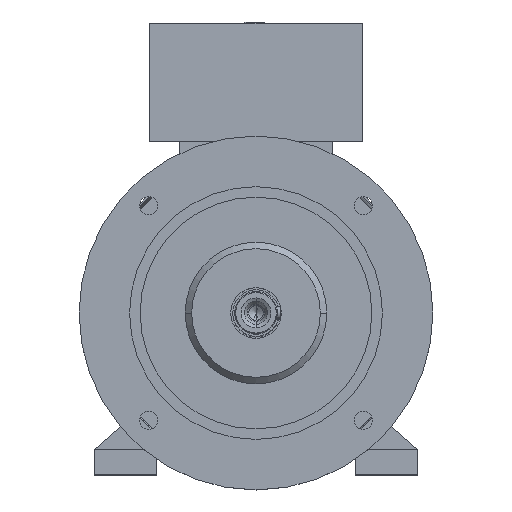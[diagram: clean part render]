
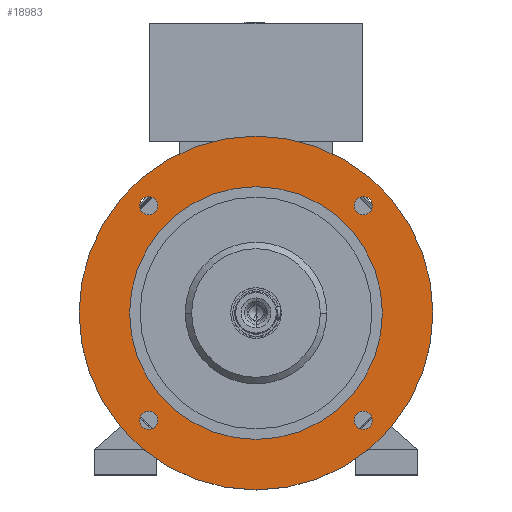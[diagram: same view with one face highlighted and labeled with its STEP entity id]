
A CAD part, top view. The second image highlights one B-rep face of the part: STEP entity #18983.
In plain terms, the highlighted planar face has unit normal (0, 0, 1).
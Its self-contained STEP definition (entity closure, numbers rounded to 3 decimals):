
#304 = DIRECTION ( 'NONE',  ( 1., 0., 0. ) ) ;
#600 = CIRCLE ( 'NONE', #13720, 175. ) ;
#696 = ORIENTED_EDGE ( 'NONE', *, *, #20912, .T. ) ;
#703 = FACE_BOUND ( 'NONE', #12843, .T. ) ;
#992 = CARTESIAN_POINT ( 'NONE',  ( 0., 0., 235. ) ) ;
#1061 = CIRCLE ( 'NONE', #20947, 125. ) ;
#1234 = EDGE_LOOP ( 'NONE', ( #16765, #8717 ) ) ;
#1610 = FACE_BOUND ( 'NONE', #12971, .T. ) ;
#2483 = VERTEX_POINT ( 'NONE', #13004 ) ;
#2506 = EDGE_CURVE ( 'NONE', #20152, #2483, #22468, .T. ) ;
#2639 = DIRECTION ( 'NONE',  ( -1., 0., 0. ) ) ;
#2723 = DIRECTION ( 'NONE',  ( 0., 0., -1. ) ) ;
#3949 = CARTESIAN_POINT ( 'NONE',  ( 106.066, 106.066, 235. ) ) ;
#4060 = CIRCLE ( 'NONE', #5446, 9. ) ;
#4516 = CARTESIAN_POINT ( 'NONE',  ( 106.066, 106.066, 235. ) ) ;
#4687 = CARTESIAN_POINT ( 'NONE',  ( 97.066, -106.066, 235. ) ) ;
#4689 = AXIS2_PLACEMENT_3D ( 'NONE', #4516, #6217, #23840 ) ;
#4699 = ORIENTED_EDGE ( 'NONE', *, *, #13343, .F. ) ;
#4749 = DIRECTION ( 'NONE',  ( -1., 0., 0. ) ) ;
#4748 = DIRECTION ( 'NONE',  ( 0., 0., -1. ) ) ;
#4988 = CARTESIAN_POINT ( 'NONE',  ( -115.066, -106.066, 235. ) ) ;
#5011 = CARTESIAN_POINT ( 'NONE',  ( -97.066, -106.066, 235. ) ) ;
#5141 = ORIENTED_EDGE ( 'NONE', *, *, #7512, .F. ) ;
#5160 = EDGE_CURVE ( 'NONE', #13303, #23023, #19326, .T. ) ;
#5182 = EDGE_CURVE ( 'NONE', #24941, #19526, #6085, .T. ) ;
#5326 = CARTESIAN_POINT ( 'NONE',  ( -175., 0., 235. ) ) ;
#5446 = AXIS2_PLACEMENT_3D ( 'NONE', #3949, #17420, #23192 ) ;
#5651 = CIRCLE ( 'NONE', #11025, 175. ) ;
#5861 = DIRECTION ( 'NONE',  ( 1., 0., 0. ) ) ;
#5904 = AXIS2_PLACEMENT_3D ( 'NONE', #23944, #22281, #22370 ) ;
#6005 = AXIS2_PLACEMENT_3D ( 'NONE', #7514, #17058, #7435 ) ;
#6085 = CIRCLE ( 'NONE', #24391, 9. ) ;
#6212 = ORIENTED_EDGE ( 'NONE', *, *, #5160, .T. ) ;
#6217 = DIRECTION ( 'NONE',  ( 0., 0., -1. ) ) ;
#6854 = CARTESIAN_POINT ( 'NONE',  ( -106.066, -106.066, 235. ) ) ;
#7309 = FACE_OUTER_BOUND ( 'NONE', #20898, .T. ) ;
#7435 = DIRECTION ( 'NONE',  ( 1., 0., 0. ) ) ;
#7512 = EDGE_CURVE ( 'NONE', #9274, #12712, #5651, .T. ) ;
#7514 = CARTESIAN_POINT ( 'NONE',  ( 106.066, -106.066, 235. ) ) ;
#7535 = VERTEX_POINT ( 'NONE', #17651 ) ;
#7945 = PLANE ( 'NONE',  #9238 ) ;
#8336 = DIRECTION ( 'NONE',  ( 1., 0., 0. ) ) ;
#8717 = ORIENTED_EDGE ( 'NONE', *, *, #13627, .T. ) ;
#9238 = AXIS2_PLACEMENT_3D ( 'NONE', #9952, #15531, #5861 ) ;
#9274 = VERTEX_POINT ( 'NONE', #16119 ) ;
#9577 = CIRCLE ( 'NONE', #6005, 9. ) ;
#9639 = ORIENTED_EDGE ( 'NONE', *, *, #10338, .T. ) ;
#9800 = ORIENTED_EDGE ( 'NONE', *, *, #10272, .T. ) ;
#9865 = CARTESIAN_POINT ( 'NONE',  ( 106.066, -106.066, 235. ) ) ;
#9952 = CARTESIAN_POINT ( 'NONE',  ( 0., 175., 235. ) ) ;
#10272 = EDGE_CURVE ( 'NONE', #2483, #20152, #4060, .T. ) ;
#10338 = EDGE_CURVE ( 'NONE', #19526, #24941, #24198, .T. ) ;
#10419 = EDGE_CURVE ( 'NONE', #23023, #13303, #1061, .T. ) ;
#10533 = CARTESIAN_POINT ( 'NONE',  ( 0., 0., 235. ) ) ;
#10732 = EDGE_CURVE ( 'NONE', #12010, #11928, #15460, .T. ) ;
#11025 = AXIS2_PLACEMENT_3D ( 'NONE', #11890, #21533, #15877 ) ;
#11695 = CARTESIAN_POINT ( 'NONE',  ( 0., 0., 235. ) ) ;
#11777 = FACE_BOUND ( 'NONE', #1234, .T. ) ;
#11857 = DIRECTION ( 'NONE',  ( 0., 0., -1. ) ) ;
#11890 = CARTESIAN_POINT ( 'NONE',  ( 0., 0., 235. ) ) ;
#11928 = VERTEX_POINT ( 'NONE', #4687 ) ;
#12010 = VERTEX_POINT ( 'NONE', #15028 ) ;
#12192 = CARTESIAN_POINT ( 'NONE',  ( -115.066, 106.066, 235. ) ) ;
#12193 = AXIS2_PLACEMENT_3D ( 'NONE', #16011, #21736, #8336 ) ;
#12541 = DIRECTION ( 'NONE',  ( 1., 0., 0. ) ) ;
#12712 = VERTEX_POINT ( 'NONE', #5326 ) ;
#12843 = EDGE_LOOP ( 'NONE', ( #6212, #17655 ) ) ;
#12971 = EDGE_LOOP ( 'NONE', ( #9800, #18118 ) ) ;
#13004 = CARTESIAN_POINT ( 'NONE',  ( 115.066, 106.066, 235. ) ) ;
#13135 = EDGE_LOOP ( 'NONE', ( #696, #15746 ) ) ;
#13303 = VERTEX_POINT ( 'NONE', #20057 ) ;
#13343 = EDGE_CURVE ( 'NONE', #12712, #9274, #600, .T. ) ;
#13426 = CIRCLE ( 'NONE', #5904, 9. ) ;
#13627 = EDGE_CURVE ( 'NONE', #11928, #12010, #9577, .T. ) ;
#13720 = AXIS2_PLACEMENT_3D ( 'NONE', #992, #4748, #2639 ) ;
#14293 = AXIS2_PLACEMENT_3D ( 'NONE', #9865, #23317, #304 ) ;
#15028 = CARTESIAN_POINT ( 'NONE',  ( 115.066, -106.066, 235. ) ) ;
#15460 = CIRCLE ( 'NONE', #14293, 9. ) ;
#15531 = DIRECTION ( 'NONE',  ( 0., 0., 1. ) ) ;
#15583 = CARTESIAN_POINT ( 'NONE',  ( 125., 0., 235. ) ) ;
#15669 = EDGE_CURVE ( 'NONE', #23660, #7535, #13426, .T. ) ;
#15746 = ORIENTED_EDGE ( 'NONE', *, *, #15669, .T. ) ;
#15768 = DIRECTION ( 'NONE',  ( 0., 0., -1. ) ) ;
#15877 = DIRECTION ( 'NONE',  ( -1., 0., 0. ) ) ;
#16011 = CARTESIAN_POINT ( 'NONE',  ( -106.066, 106.066, 235. ) ) ;
#16119 = CARTESIAN_POINT ( 'NONE',  ( 175., 0., 235. ) ) ;
#16765 = ORIENTED_EDGE ( 'NONE', *, *, #10732, .T. ) ;
#17058 = DIRECTION ( 'NONE',  ( 0., 0., -1. ) ) ;
#17420 = DIRECTION ( 'NONE',  ( 0., 0., -1. ) ) ;
#17538 = FACE_BOUND ( 'NONE', #21130, .T. ) ;
#17619 = DIRECTION ( 'NONE',  ( -1., 0., 0. ) ) ;
#17651 = CARTESIAN_POINT ( 'NONE',  ( -97.066, 106.066, 235. ) ) ;
#17655 = ORIENTED_EDGE ( 'NONE', *, *, #10419, .T. ) ;
#18118 = ORIENTED_EDGE ( 'NONE', *, *, #2506, .T. ) ;
#18747 = FACE_BOUND ( 'NONE', #13135, .T. ) ;
#18983 = ADVANCED_FACE ( 'NONE', ( #7309, #703, #11777, #1610, #18747, #17538 ), #7945, .T. ) ;
#19242 = AXIS2_PLACEMENT_3D ( 'NONE', #11695, #15768, #17619 ) ;
#19326 = CIRCLE ( 'NONE', #19242, 125. ) ;
#19526 = VERTEX_POINT ( 'NONE', #4988 ) ;
#19547 = CARTESIAN_POINT ( 'NONE',  ( -106.066, -106.066, 235. ) ) ;
#20057 = CARTESIAN_POINT ( 'NONE',  ( -125., 0., 235. ) ) ;
#20152 = VERTEX_POINT ( 'NONE', #24620 ) ;
#20898 = EDGE_LOOP ( 'NONE', ( #4699, #5141 ) ) ;
#20912 = EDGE_CURVE ( 'NONE', #7535, #23660, #21662, .T. ) ;
#20947 = AXIS2_PLACEMENT_3D ( 'NONE', #10533, #2723, #4749 ) ;
#21130 = EDGE_LOOP ( 'NONE', ( #21378, #9639 ) ) ;
#21378 = ORIENTED_EDGE ( 'NONE', *, *, #5182, .T. ) ;
#21533 = DIRECTION ( 'NONE',  ( 0., 0., -1. ) ) ;
#21584 = DIRECTION ( 'NONE',  ( 1., 0., 0. ) ) ;
#21662 = CIRCLE ( 'NONE', #12193, 9. ) ;
#21736 = DIRECTION ( 'NONE',  ( 0., 0., -1. ) ) ;
#21738 = AXIS2_PLACEMENT_3D ( 'NONE', #6854, #23813, #12541 ) ;
#22281 = DIRECTION ( 'NONE',  ( 0., 0., -1. ) ) ;
#22370 = DIRECTION ( 'NONE',  ( 1., 0., 0. ) ) ;
#22468 = CIRCLE ( 'NONE', #4689, 9. ) ;
#23023 = VERTEX_POINT ( 'NONE', #15583 ) ;
#23192 = DIRECTION ( 'NONE',  ( 1., 0., 0. ) ) ;
#23317 = DIRECTION ( 'NONE',  ( 0., 0., -1. ) ) ;
#23660 = VERTEX_POINT ( 'NONE', #12192 ) ;
#23813 = DIRECTION ( 'NONE',  ( 0., 0., -1. ) ) ;
#23840 = DIRECTION ( 'NONE',  ( 1., 0., 0. ) ) ;
#23944 = CARTESIAN_POINT ( 'NONE',  ( -106.066, 106.066, 235. ) ) ;
#24198 = CIRCLE ( 'NONE', #21738, 9. ) ;
#24391 = AXIS2_PLACEMENT_3D ( 'NONE', #19547, #11857, #21584 ) ;
#24620 = CARTESIAN_POINT ( 'NONE',  ( 97.066, 106.066, 235. ) ) ;
#24941 = VERTEX_POINT ( 'NONE', #5011 ) ;
